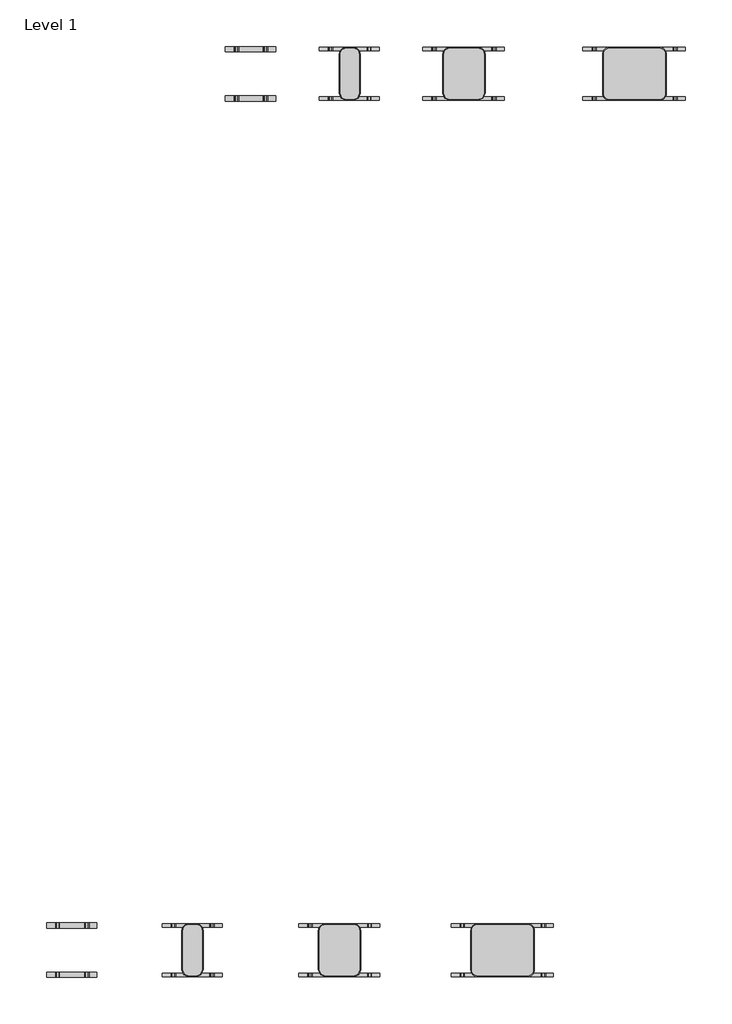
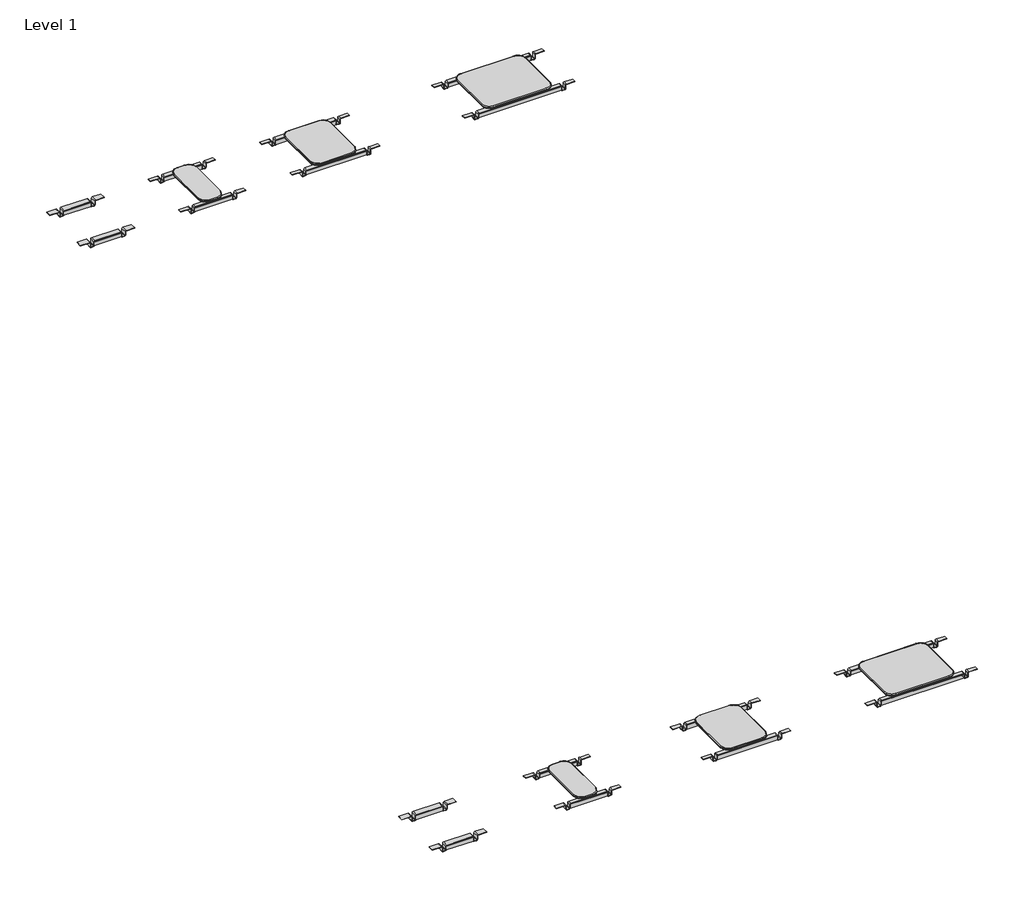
# One storey, incomplete: 8 furniture elements.
"""IFC4 building model written with IfcOpenShell, lengths in millimetres."""

from ifc_helpers import new_model, si_unit, origin, place, context, project, spatial, transform, mapped, element, save
from components import furniture_35c25156, furniture_fae9c8eb, furniture_b8f35372, furniture_fa3b0a36

model = new_model("IFC4")

# Units and contexts
model_context = context("Model", 3, world=origin())
ifc_project = project(units=[si_unit("LENGTHUNIT", "METRE", prefix="MILLI")], contexts=[model_context])

# Site, building, storey
site = spatial("IfcSite", under=ifc_project)
building = spatial("IfcBuilding", under=site)
storey = spatial("IfcBuildingStorey", under=building, Name="Level 1", Elevation=0.0)

# Furniture
placement = place(None, origin())
furniture_shape = furniture_35c25156(model_context)
element("IfcFurniture", 1, ObjectType="Stance_HC-Spry-Linking_Bracket : SPLB6", at=placement, inside=storey, context=model_context, shape_type="MappedRepresentation", body=[
    mapped(furniture_shape, transform((-14186.9132835, 11466.3966196, 0.0), x_axis=(1.0, 0.0, 0.0), y_axis=(0.0, 1.0, 0.0), z_axis=(0.0, 0.0, 1.0))),
])
element("IfcFurniture", 2, ObjectType="Stance_HC-Spry-Linking_Bracket : SPLB6", at=placement, inside=storey, context=model_context, shape_type="MappedRepresentation", body=[
    mapped(furniture_shape, transform((-15476.5313451, 5146.0746159, 0.0), x_axis=(1.0, 0.0, 0.0), y_axis=(0.0, 1.0, 0.0), z_axis=(0.0, 0.0, 1.0))),
])
furniture_2_shape = furniture_fae9c8eb(model_context)
element("IfcFurniture", 3, ObjectType="Stance_HC-Spry-Linking_Bracket : SPLT6", at=placement, inside=storey, context=model_context, shape_type="MappedRepresentation", body=[
    mapped(furniture_2_shape, transform((-14643.1588918, 5146.0746159, 0.0), x_axis=(1.0, 0.0, 0.0), y_axis=(0.0, 1.0, 0.0), z_axis=(0.0, 0.0, 1.0))),
])
element("IfcFurniture", 4, ObjectType="Stance_HC-Spry-Linking_Bracket : SPLT6", at=placement, inside=storey, context=model_context, shape_type="MappedRepresentation", body=[
    mapped(furniture_2_shape, transform((-13509.4012501, 11466.3966196, 0.0), x_axis=(1.0, 0.0, 0.0), y_axis=(0.0, 1.0, 0.0), z_axis=(0.0, 0.0, 1.0))),
])
furniture_3_shape = furniture_b8f35372(model_context)
element("IfcFurniture", 5, ObjectType="Stance_HC-Spry-Linking_Bracket : SPLT12", at=placement, inside=storey, context=model_context, shape_type="MappedRepresentation", body=[
    mapped(furniture_3_shape, transform((-13658.1710933, 5146.0746159, 0.0), x_axis=(1.0, 0.0, 0.0), y_axis=(0.0, 1.0, 0.0), z_axis=(0.0, 0.0, 1.0))),
])
element("IfcFurniture", 6, ObjectType="Stance_HC-Spry-Linking_Bracket : SPLT12", at=placement, inside=storey, context=model_context, shape_type="MappedRepresentation", body=[
    mapped(furniture_3_shape, transform((-12762.0392168, 11466.3966196, 0.0), x_axis=(1.0, 0.0, 0.0), y_axis=(0.0, 1.0, 0.0), z_axis=(0.0, 0.0, 1.0))),
])
furniture_4_shape = furniture_fa3b0a36(model_context)
element("IfcFurniture", 7, ObjectType="Stance_HC-Spry-Linking_Bracket : SPLT18", at=placement, inside=storey, context=model_context, shape_type="MappedRepresentation", body=[
    mapped(furniture_4_shape, transform((-12559.2782906, 5146.0746159, 0.0), x_axis=(1.0, 0.0, 0.0), y_axis=(0.0, 1.0, 0.0), z_axis=(0.0, 0.0, 1.0))),
])
element("IfcFurniture", 8, ObjectType="Stance_HC-Spry-Linking_Bracket : SPLT18", at=placement, inside=storey, context=model_context, shape_type="MappedRepresentation", body=[
    mapped(furniture_4_shape, transform((-11608.2771835, 11466.3966196, 0.0), x_axis=(1.0, 0.0, 0.0), y_axis=(0.0, 1.0, 0.0), z_axis=(0.0, 0.0, 1.0))),
])

save(model, "model.ifc")
